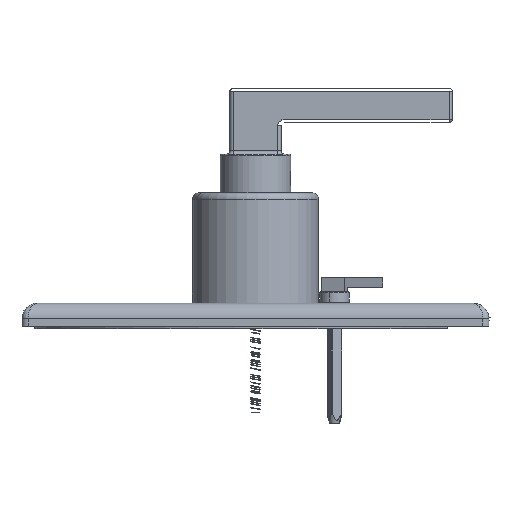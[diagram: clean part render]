
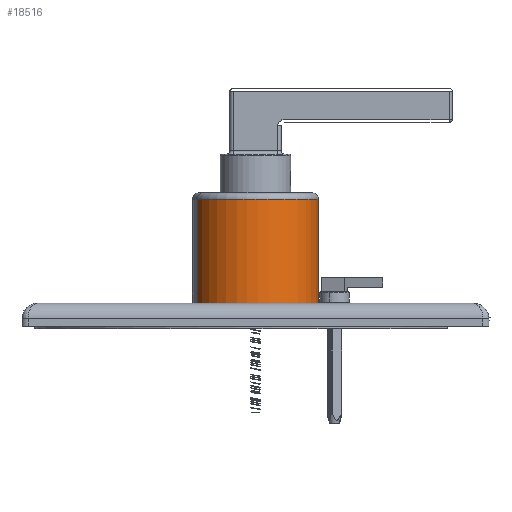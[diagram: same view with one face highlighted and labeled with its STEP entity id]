
A CAD part, left-side view. The second image highlights one B-rep face of the part: STEP entity #18516.
In plain terms, the highlighted cylindrical face has radius 25.749 mm (diameter 51.498 mm), a partial arc.
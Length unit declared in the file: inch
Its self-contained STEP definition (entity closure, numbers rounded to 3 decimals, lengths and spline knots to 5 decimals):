
#41 = CARTESIAN_POINT ( 'NONE',  ( -0.38832, 0.93643, 2.04312 ) ) ;
#436 = ORIENTED_EDGE ( 'NONE', *, *, #11549, .T. ) ;
#527 = VERTEX_POINT ( 'NONE', #41 ) ;
#530 = DIRECTION ( 'NONE',  ( 0., 0., 1. ) ) ;
#780 = CARTESIAN_POINT ( 'NONE',  ( 0.38832, -0.93643, 2.04312 ) ) ;
#1747 = CARTESIAN_POINT ( 'NONE',  ( -0.38832, 0.93643, 0.19612 ) ) ;
#2905 = AXIS2_PLACEMENT_3D ( 'NONE', #14898, #530, #4513 ) ;
#3982 = CIRCLE ( 'NONE', #20581, 1.01375 ) ;
#4243 = CARTESIAN_POINT ( 'NONE',  ( 0.38832, -0.93643, 0.19612 ) ) ;
#4513 = DIRECTION ( 'NONE',  ( -0.383, 0.924, 0. ) ) ;
#5807 = DIRECTION ( 'NONE',  ( 0., 0., -1. ) ) ;
#6167 = LINE ( 'NONE', #4243, #26097 ) ;
#6315 = FACE_OUTER_BOUND ( 'NONE', #19819, .T. ) ;
#6731 = EDGE_CURVE ( 'NONE', #14808, #20020, #6167, .T. ) ;
#7862 = AXIS2_PLACEMENT_3D ( 'NONE', #15386, #17186, #25239 ) ;
#8055 = DIRECTION ( 'NONE',  ( 0., 0., 1. ) ) ;
#8204 = EDGE_CURVE ( 'NONE', #9135, #527, #10400, .T. ) ;
#9135 = VERTEX_POINT ( 'NONE', #18732 ) ;
#9908 = EDGE_CURVE ( 'NONE', #20020, #527, #3982, .T. ) ;
#10400 = LINE ( 'NONE', #1747, #16118 ) ;
#11549 = EDGE_CURVE ( 'NONE', #9135, #14808, #21815, .T. ) ;
#12390 = DIRECTION ( 'NONE',  ( -0.383, 0.924, 0. ) ) ;
#13976 = ORIENTED_EDGE ( 'NONE', *, *, #9908, .T. ) ;
#14281 = CARTESIAN_POINT ( 'NONE',  ( 0., 0., 2.04312 ) ) ;
#14808 = VERTEX_POINT ( 'NONE', #21933 ) ;
#14898 = CARTESIAN_POINT ( 'NONE',  ( 0., 0., 0.19612 ) ) ;
#15386 = CARTESIAN_POINT ( 'NONE',  ( 0., 0., 0.19612 ) ) ;
#16118 = VECTOR ( 'NONE', #8055, 39.37008 ) ;
#17186 = DIRECTION ( 'NONE',  ( 0., 0., 1. ) ) ;
#18516 = ADVANCED_FACE ( 'NONE', ( #6315 ), #23229, .T. ) ;
#18732 = CARTESIAN_POINT ( 'NONE',  ( -0.38832, 0.93643, 0.19612 ) ) ;
#19819 = EDGE_LOOP ( 'NONE', ( #436, #23302, #13976, #21551 ) ) ;
#20020 = VERTEX_POINT ( 'NONE', #780 ) ;
#20581 = AXIS2_PLACEMENT_3D ( 'NONE', #14281, #5807, #12390 ) ;
#20790 = DIRECTION ( 'NONE',  ( 0., 0., 1. ) ) ;
#21551 = ORIENTED_EDGE ( 'NONE', *, *, #8204, .F. ) ;
#21815 = CIRCLE ( 'NONE', #7862, 1.01375 ) ;
#21933 = CARTESIAN_POINT ( 'NONE',  ( 0.38832, -0.93643, 0.19612 ) ) ;
#23229 = CYLINDRICAL_SURFACE ( 'NONE', #2905, 1.01375 ) ;
#23302 = ORIENTED_EDGE ( 'NONE', *, *, #6731, .T. ) ;
#25239 = DIRECTION ( 'NONE',  ( -0.383, 0.924, 0. ) ) ;
#26097 = VECTOR ( 'NONE', #20790, 39.37008 ) ;
